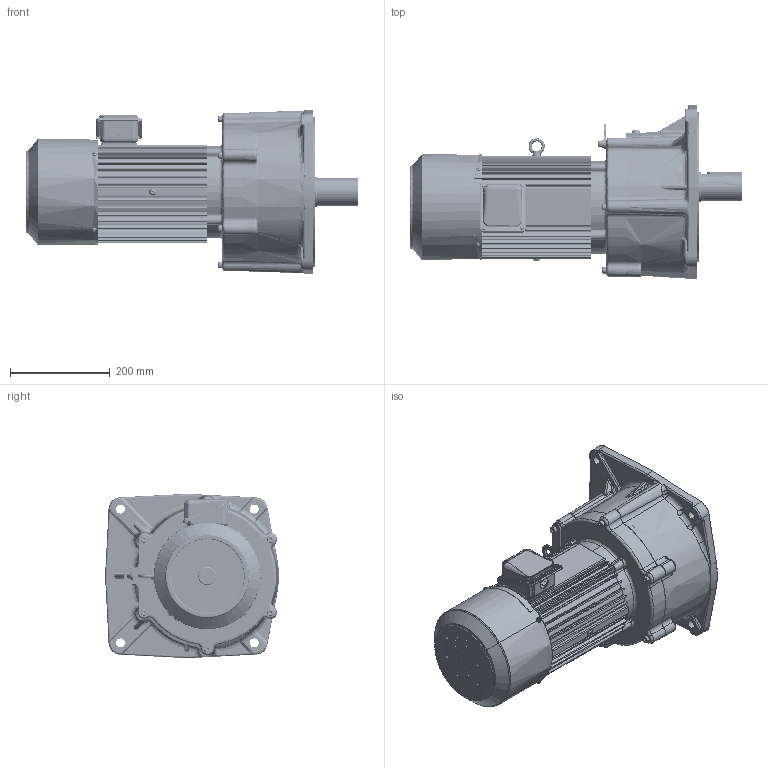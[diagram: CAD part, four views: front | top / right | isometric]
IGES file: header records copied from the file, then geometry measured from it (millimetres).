
Start section: SolidWorks IGES file using analytic representation for surfaces
Global section: file name: \\100.100.100.8\1_共有作業フォルダ\1-5_３Ｄデータ\solidworks\personal-folder\H.Nagayama\SGP1外形_075~370\P1(3D)_075~370\igs\TMFB2-37-(10~50).IGS; native system: SolidWorks 2018; preprocessor: SolidWorks 2018; author: user; date: 210309.151857; units: millimetre
Bounding box: 666 x 349 x 330 mm (x, y, z)
Surface area: 1257918.8 mm2 (no closed solid volume)
Topology: 0 solids, 0 shells, 2842 faces, 32412 edges, 32307 vertices
Faces by surface type: bspline 1466, revolution 1376
